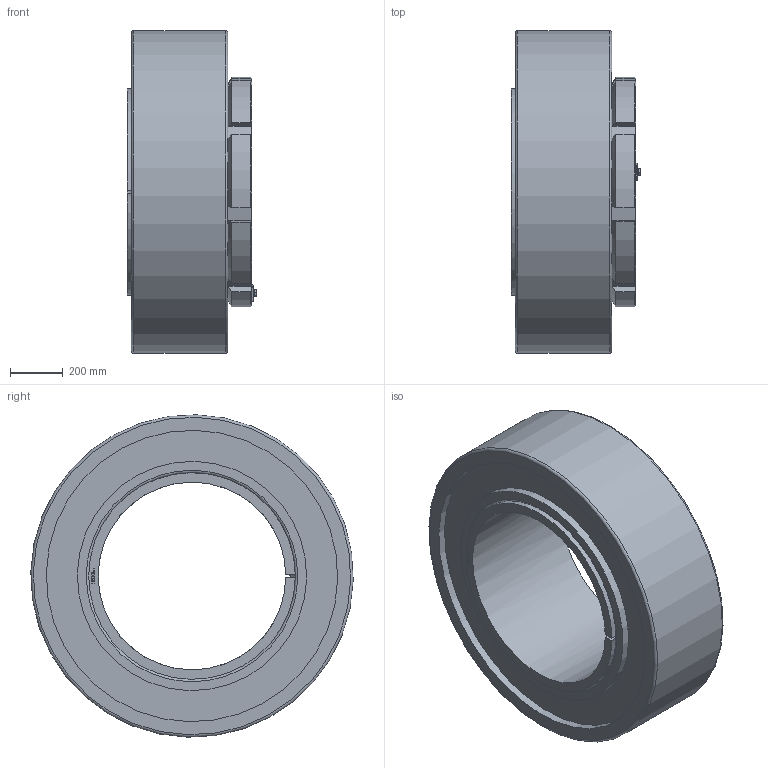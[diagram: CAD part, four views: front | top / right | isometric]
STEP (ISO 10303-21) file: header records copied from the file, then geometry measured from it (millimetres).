
FILE_DESCRIPTION( ( 'STEP AP203' ), ' ' );
FILE_NAME( 'p:/temp/worker_111/1744_4620/app_90_02016102820373438307441192d056f_000000_00_00_000000/format_0/BGL H 31_750 TL+231_750K.stp', '2016-10-28T18:37:38', ( '' ), ( '' ), ' ', 'PARTsolutions', ' ' );
FILE_SCHEMA( ( 'CONFIG_CONTROL_DESIGN' ) );
Length unit declared in the file: millimetre
Products named in the file (6): BGL H 31/750 TL+231/750K; _BGLH31/750TLB; _BGL HM 30/750; _BGLH31/750TL+H-231/750K; _BGL MS 30/750-800part; _BGL MS 30/750-800HHS
Assembly tree (5 placements, depth 2):
  BGL H 31/750 TL+231/750K
    _BGLH31/750TLB
    _BGL HM 30/750
    _BGLH31/750TL+H-231/750K
    _BGL MS 30/750-800part
    _BGL MS 30/750-800HHS
Bounding box: 490.98 x 1219.58 x 1219.58 mm (x, y, z)
Volume: 277442692 mm3; surface area: 7108712.1 mm2
Topology: 5 solids, 5 shells, 351 faces, 899 edges, 589 vertices
Faces by surface type: plane 230, cylinder 79, cone 38, torus 4
Full cylindrical faces by diameter (mm): 16 x9, 18 x1, 24.4 x1, 743 x1, 867.5 x2, 1102.5 x2, 1220 x1
Entity records: 10778 total; most frequent: CARTESIAN_POINT 2120, DIRECTION 1729, ORIENTED_EDGE 1726, EDGE_CURVE 863, VERTEX_POINT 586, AXIS2_PLACEMENT_3D 577, LINE 575, VECTOR 575
